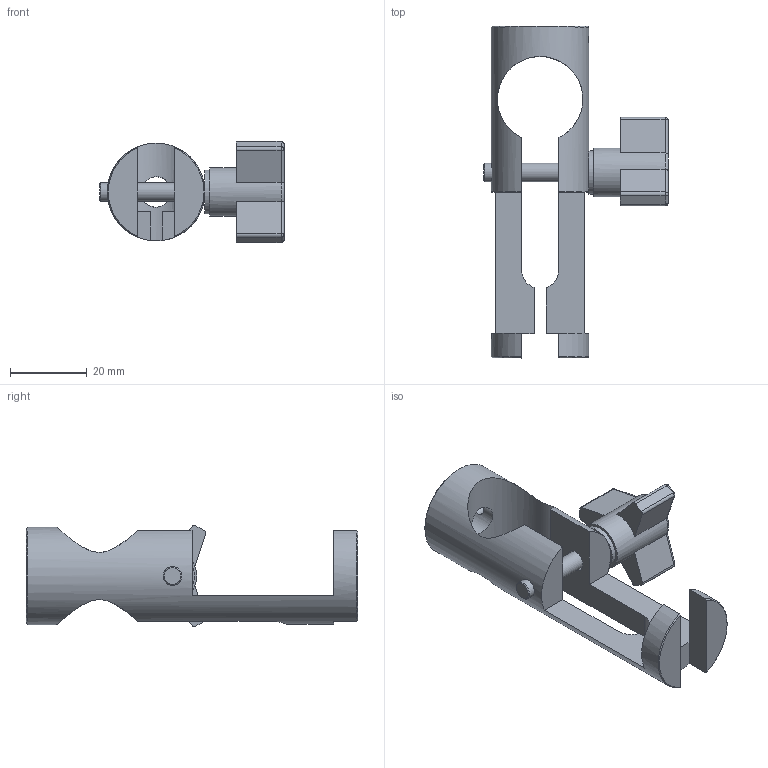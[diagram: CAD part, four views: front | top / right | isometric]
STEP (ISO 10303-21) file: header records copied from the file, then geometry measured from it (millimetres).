
FILE_DESCRIPTION((''),'2;1');
FILE_NAME('F:\CAD files\Itr\3D MARKETING MODELS\GRIPS\G1001-2\G1001-2.stp','2017-04-19T12:42:29',('mlampen'),(''),'Autodesk Inventor 2010','Autodesk Inventor 2010','');
FILE_SCHEMA(('AUTOMOTIVE_DESIGN { 1 0 10303 214 1 1 1 1 }'));
Length unit declared in the file: inch
Products named in the file (3): Assembly1; Part2; Part4
Assembly tree (2 placements, depth 2):
  Assembly1
    Part2
    Part4
Bounding box: 47.96 x 86.36 x 26.33 mm (x, y, z)
Volume: 18282.1 mm3; surface area: 10614.4 mm2
Topology: 2 solids, 2 shells, 148 faces, 304 edges, 191 vertices
Faces by surface type: plane 68, cylinder 64, sphere 6, cone 5, torus 3, bspline 2
Full cylindrical faces by diameter (mm): 0.127 x1, 0.381 x1, 0.635 x1, 0.889 x1, 1.143 x1, 1.397 x1, 1.651 x1, 1.905 x1, 2.159 x1, 2.413 x1, 2.667 x1, 2.921 x1, 3.175 x1, 3.429 x1, 3.505 x1, 3.683 x1, 3.81 x1, 3.937 x1, 4.191 x1, 4.445 x1, 4.699 x1, 4.826 x2, 4.953 x1, 5.08 x1, 5.207 x1, 5.461 x1, 5.588 x1, 5.715 x1, 5.969 x1, 6.223 x1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
Entity records: 3928 total; most frequent: CARTESIAN_POINT 931, DIRECTION 645, ORIENTED_EDGE 476, AXIS2_PLACEMENT_3D 281, EDGE_LOOP 242, EDGE_CURVE 238, VERTEX_POINT 182, FACE_OUTER_BOUND 147
